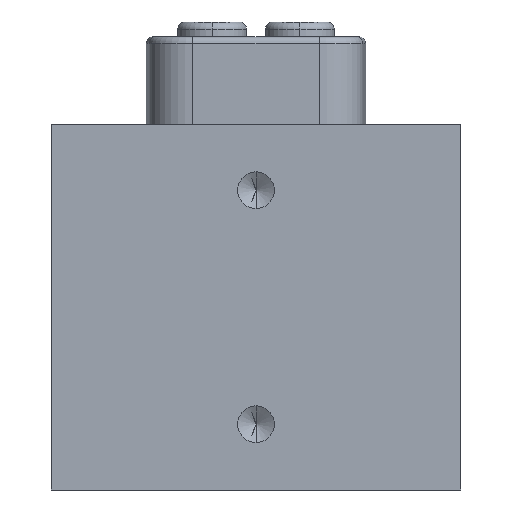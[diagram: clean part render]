
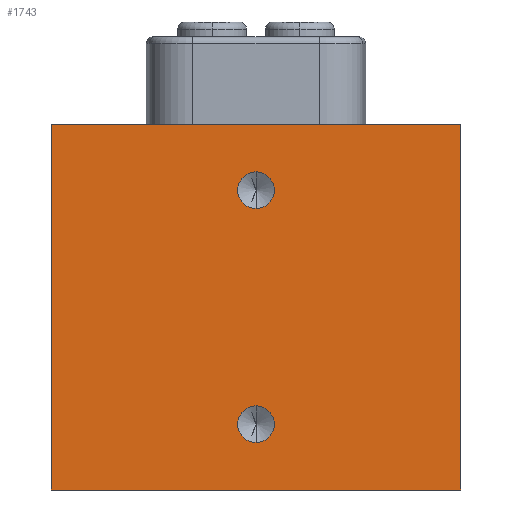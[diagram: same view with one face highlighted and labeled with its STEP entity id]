
A CAD part, front view. The second image highlights one B-rep face of the part: STEP entity #1743.
In plain terms, the highlighted planar face has unit normal (0, -1, 0).
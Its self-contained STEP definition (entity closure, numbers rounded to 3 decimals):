
#45 = EDGE_LOOP ( 'NONE', ( #4746, #718, #1619, #3641 ) ) ;
#105 = AXIS2_PLACEMENT_3D ( 'NONE', #4288, #2098, #990 ) ;
#178 = AXIS2_PLACEMENT_3D ( 'NONE', #1015, #1808, #3627 ) ;
#208 = FACE_BOUND ( 'NONE', #832, .T. ) ;
#237 = VERTEX_POINT ( 'NONE', #1221 ) ;
#260 = CIRCLE ( 'NONE', #178, 1.25 ) ;
#364 = CARTESIAN_POINT ( 'NONE',  ( -14., -7.5, 12.5 ) ) ;
#418 = VECTOR ( 'NONE', #1558, 1000. ) ;
#448 = FACE_BOUND ( 'NONE', #2123, .T. ) ;
#515 = DIRECTION ( 'NONE',  ( 0., 0., -1. ) ) ;
#602 = LINE ( 'NONE', #4185, #1351 ) ;
#612 = ORIENTED_EDGE ( 'NONE', *, *, #4671, .F. ) ;
#647 = CARTESIAN_POINT ( 'NONE',  ( 0., -7.5, -9.25 ) ) ;
#690 = CARTESIAN_POINT ( 'NONE',  ( 14., -7.5, 12.5 ) ) ;
#718 = ORIENTED_EDGE ( 'NONE', *, *, #4358, .F. ) ;
#769 = LINE ( 'NONE', #364, #2412 ) ;
#810 = CARTESIAN_POINT ( 'NONE',  ( 0., -7.5, 8. ) ) ;
#825 = VERTEX_POINT ( 'NONE', #3111 ) ;
#832 = EDGE_LOOP ( 'NONE', ( #2978, #1060 ) ) ;
#920 = CARTESIAN_POINT ( 'NONE',  ( -14., -7.5, 12.5 ) ) ;
#983 = PLANE ( 'NONE',  #3136 ) ;
#990 = DIRECTION ( 'NONE',  ( 0., 0., -1. ) ) ;
#1015 = CARTESIAN_POINT ( 'NONE',  ( 0., -7.5, -8. ) ) ;
#1060 = ORIENTED_EDGE ( 'NONE', *, *, #2898, .F. ) ;
#1166 = VERTEX_POINT ( 'NONE', #1375 ) ;
#1172 = CIRCLE ( 'NONE', #4458, 1.25 ) ;
#1183 = CARTESIAN_POINT ( 'NONE',  ( 14., -7.5, 12.5 ) ) ;
#1221 = CARTESIAN_POINT ( 'NONE',  ( -14., -7.5, -12.5 ) ) ;
#1289 = LINE ( 'NONE', #1183, #4117 ) ;
#1351 = VECTOR ( 'NONE', #2016, 1000. ) ;
#1375 = CARTESIAN_POINT ( 'NONE',  ( 14., -7.5, -12.5 ) ) ;
#1537 = DIRECTION ( 'NONE',  ( 0., 0., -1. ) ) ;
#1558 = DIRECTION ( 'NONE',  ( 1., 0., 0. ) ) ;
#1609 = CIRCLE ( 'NONE', #2365, 1.25 ) ;
#1619 = ORIENTED_EDGE ( 'NONE', *, *, #4361, .F. ) ;
#1743 = ADVANCED_FACE ( 'NONE', ( #448, #208, #2595 ), #983, .F. ) ;
#1808 = DIRECTION ( 'NONE',  ( 0., -1., 0. ) ) ;
#1888 = EDGE_CURVE ( 'NONE', #2750, #825, #1609, .T. ) ;
#1958 = CARTESIAN_POINT ( 'NONE',  ( -14., -7.5, 12.5 ) ) ;
#2016 = DIRECTION ( 'NONE',  ( 1., 0., 0. ) ) ;
#2021 = VERTEX_POINT ( 'NONE', #4425 ) ;
#2098 = DIRECTION ( 'NONE',  ( 0., -1., 0. ) ) ;
#2123 = EDGE_LOOP ( 'NONE', ( #612, #2280 ) ) ;
#2173 = DIRECTION ( 'NONE',  ( 0., 0., -1. ) ) ;
#2280 = ORIENTED_EDGE ( 'NONE', *, *, #1888, .F. ) ;
#2365 = AXIS2_PLACEMENT_3D ( 'NONE', #3661, #2556, #2173 ) ;
#2412 = VECTOR ( 'NONE', #3247, 1000. ) ;
#2556 = DIRECTION ( 'NONE',  ( 0., -1., 0. ) ) ;
#2595 = FACE_OUTER_BOUND ( 'NONE', #45, .T. ) ;
#2681 = CARTESIAN_POINT ( 'NONE',  ( -14., -7.5, 12.5 ) ) ;
#2706 = VERTEX_POINT ( 'NONE', #2681 ) ;
#2750 = VERTEX_POINT ( 'NONE', #2773 ) ;
#2773 = CARTESIAN_POINT ( 'NONE',  ( 0., -7.5, 9.25 ) ) ;
#2888 = DIRECTION ( 'NONE',  ( 0., 1., 0. ) ) ;
#2896 = EDGE_CURVE ( 'NONE', #2706, #237, #769, .T. ) ;
#2898 = EDGE_CURVE ( 'NONE', #2021, #3402, #260, .T. ) ;
#2951 = VERTEX_POINT ( 'NONE', #690 ) ;
#2978 = ORIENTED_EDGE ( 'NONE', *, *, #3945, .F. ) ;
#3111 = CARTESIAN_POINT ( 'NONE',  ( 0., -7.5, 6.75 ) ) ;
#3136 = AXIS2_PLACEMENT_3D ( 'NONE', #920, #2888, #4718 ) ;
#3247 = DIRECTION ( 'NONE',  ( 0., 0., -1. ) ) ;
#3402 = VERTEX_POINT ( 'NONE', #647 ) ;
#3426 = DIRECTION ( 'NONE',  ( 0., -1., 0. ) ) ;
#3627 = DIRECTION ( 'NONE',  ( 0., 0., -1. ) ) ;
#3641 = ORIENTED_EDGE ( 'NONE', *, *, #2896, .T. ) ;
#3661 = CARTESIAN_POINT ( 'NONE',  ( 0., -7.5, 8. ) ) ;
#3786 = EDGE_CURVE ( 'NONE', #237, #1166, #602, .T. ) ;
#3945 = EDGE_CURVE ( 'NONE', #3402, #2021, #4630, .T. ) ;
#4000 = LINE ( 'NONE', #1958, #418 ) ;
#4117 = VECTOR ( 'NONE', #1537, 1000. ) ;
#4185 = CARTESIAN_POINT ( 'NONE',  ( -14., -7.5, -12.5 ) ) ;
#4288 = CARTESIAN_POINT ( 'NONE',  ( 0., -7.5, -8. ) ) ;
#4358 = EDGE_CURVE ( 'NONE', #2951, #1166, #1289, .T. ) ;
#4361 = EDGE_CURVE ( 'NONE', #2706, #2951, #4000, .T. ) ;
#4425 = CARTESIAN_POINT ( 'NONE',  ( 0., -7.5, -6.75 ) ) ;
#4458 = AXIS2_PLACEMENT_3D ( 'NONE', #810, #3426, #515 ) ;
#4630 = CIRCLE ( 'NONE', #105, 1.25 ) ;
#4671 = EDGE_CURVE ( 'NONE', #825, #2750, #1172, .T. ) ;
#4718 = DIRECTION ( 'NONE',  ( 0., 0., 1. ) ) ;
#4746 = ORIENTED_EDGE ( 'NONE', *, *, #3786, .T. ) ;
